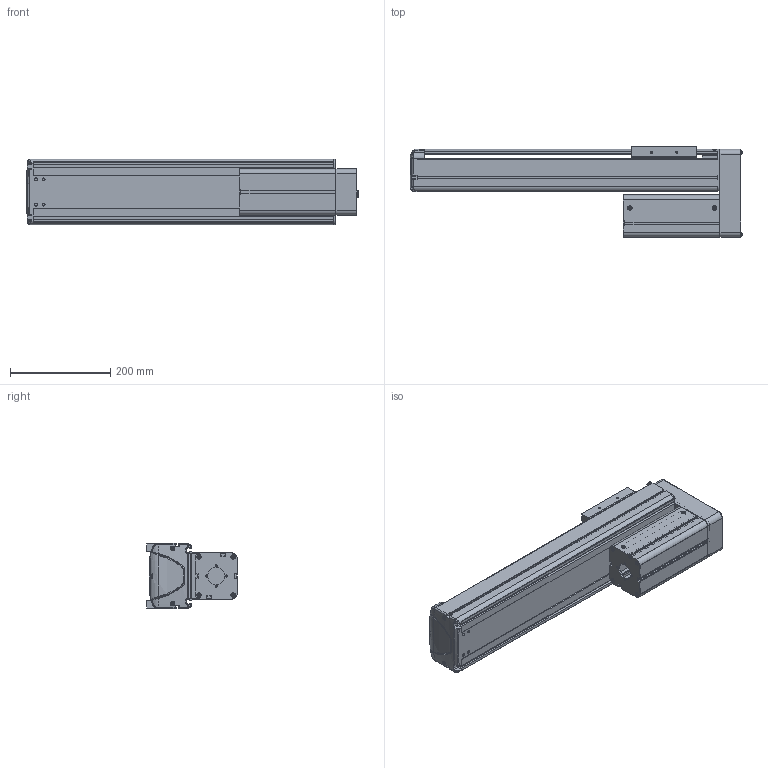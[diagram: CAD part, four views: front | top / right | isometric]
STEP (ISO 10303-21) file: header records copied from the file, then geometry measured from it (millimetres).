
FILE_DESCRIPTION((''),'2;1');
FILE_NAME('BE30E-UU-M_B-40_IGS_PRT','2017-06-17T',(' '),(''),'PRO/ENGINEER BY PARAMETRIC TECHNOLOGY CORPORATION, 2015030','PRO/ENGINEER BY PARAMETRIC TECHNOLOGY CORPORATION, 2015030','');
FILE_SCHEMA(('CONFIG_CONTROL_DESIGN'));
Length unit declared in the file: millimetre
Products named in the file (1): BE30E-UU-M_B-40_IGS_PRT
Bounding box: 661.9 x 180 x 130 mm (x, y, z)
Volume: 2508593.1 mm3; surface area: 1099735.2 mm2
Topology: 2 solids, 107 shells, 1980 faces, 5322 edges, 3444 vertices
Faces by surface type: plane 991, cylinder 789, cone 107, torus 39, bspline 30, sphere 24
Entity records: 63906 total; most frequent: CARTESIAN_POINT 13481, DIRECTION 10651, ORIENTED_EDGE 10164, EDGE_CURVE 5284, AXIS2_PLACEMENT_3D 3723, VERTEX_POINT 3444, VECTOR 3205, LINE 3205
